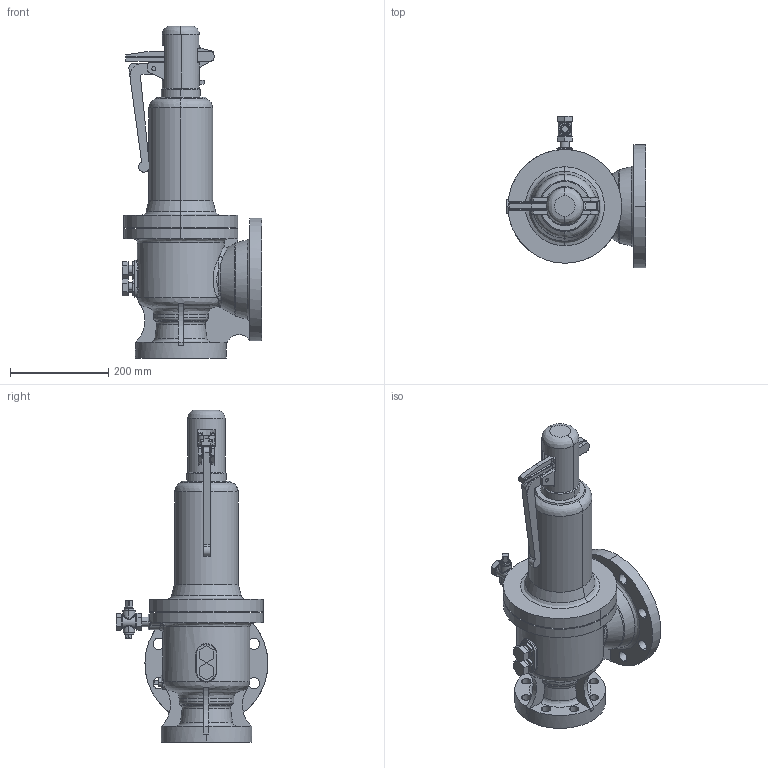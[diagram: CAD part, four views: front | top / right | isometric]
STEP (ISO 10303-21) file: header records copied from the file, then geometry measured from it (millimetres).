
FILE_DESCRIPTION( (''), '2;1');
FILE_NAME ('PC1027.9568.AF-4 80A_31396.stp','2025-07-28T12:51:44',(''),(''),'spGate 19.8.4 (****-****-****-****)','','');
FILE_SCHEMA (('AUTOMOTIVE_DESIGN'));
Length unit declared in the file: millimetre
Products named in the file (8): Assembly; AF-4 本体部P 80A; プラグ 10A; 止めボルト 80A; 背圧絞り弁 80A; レバーキャップ 80A; レバー支え 80A; レバー 80A
Assembly tree (8 placements, depth 2):
  Assembly
    AF-4 本体部P 80A
    プラグ 10A
    止めボルト 80A  x2
    背圧絞り弁 80A
    レバーキャップ 80A
    レバー支え 80A
    レバー 80A
Bounding box: 284.5 x 309.31 x 677 mm (x, y, z)
Volume: 12432664.4 mm3; surface area: 696727.1 mm2
Topology: 8 solids, 8 shells, 478 faces, 1252 edges, 788 vertices
Faces by surface type: plane 186, bspline 158, cylinder 132, sphere 2
Entity records: 37602 total; most frequent: CARTESIAN_POINT 17777, ORIENTED_EDGE 2372, DIRECTION 1924, COLOUR_RGB 1653, PRESENTATION_STYLE_ASSIGNMENT 1653, STYLED_ITEM 1653, EDGE_CURVE 1186, DRAUGHTING_PRE_DEFINED_CURVE_FONT 1186
